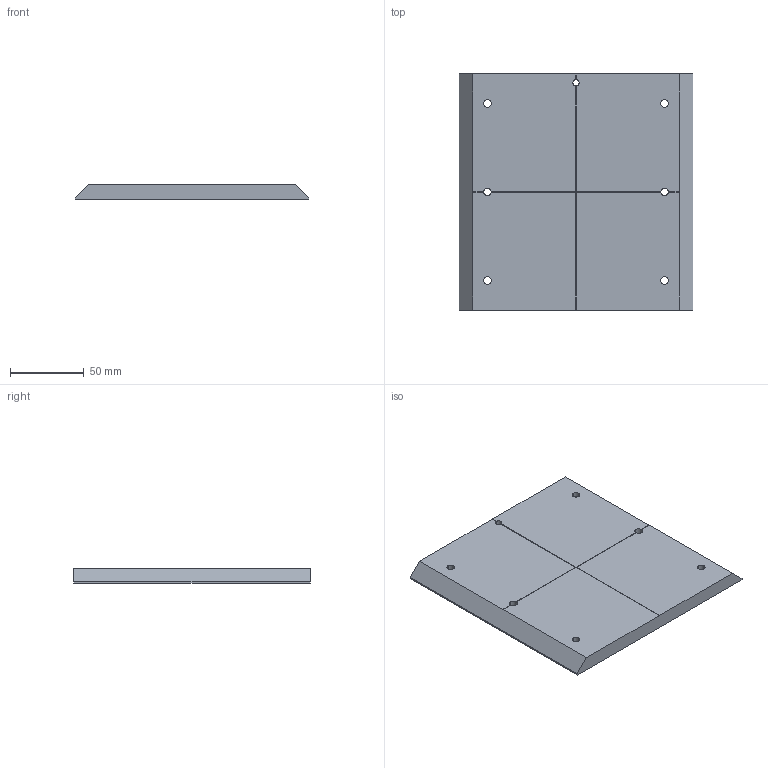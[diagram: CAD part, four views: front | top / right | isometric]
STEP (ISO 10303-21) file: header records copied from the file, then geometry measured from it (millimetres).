
FILE_DESCRIPTION (( 'STEP AP214' ), '1' );
FILE_NAME ('QCS-G160.STEP', '2023-03-15T02:53:52', ( 'Windows User' ), ( 'P R C' ), 'SwSTEP 2.0', 'SolidWorks 2019', '' );
FILE_SCHEMA (( 'AUTOMOTIVE_DESIGN' ));
Length unit declared in the file: millimetre
Products named in the file (1): QCS-G160
Bounding box: 158 x 160 x 10 mm (x, y, z)
Volume: 236186 mm3; surface area: 56523.9 mm2
Topology: 1 solids, 1 shells, 57 faces, 149 edges, 97 vertices
Faces by surface type: plane 31, cylinder 26
Entity records: 1825 total; most frequent: CARTESIAN_POINT 340, DIRECTION 309, ORIENTED_EDGE 298, EDGE_CURVE 149, AXIS2_PLACEMENT_3D 114, VERTEX_POINT 97, VECTOR 81, LINE 81
